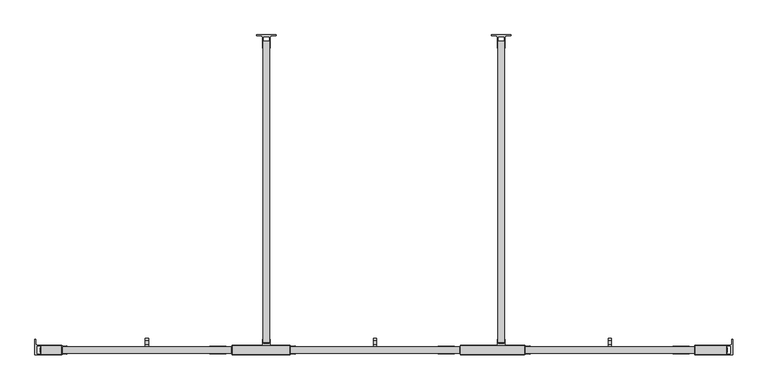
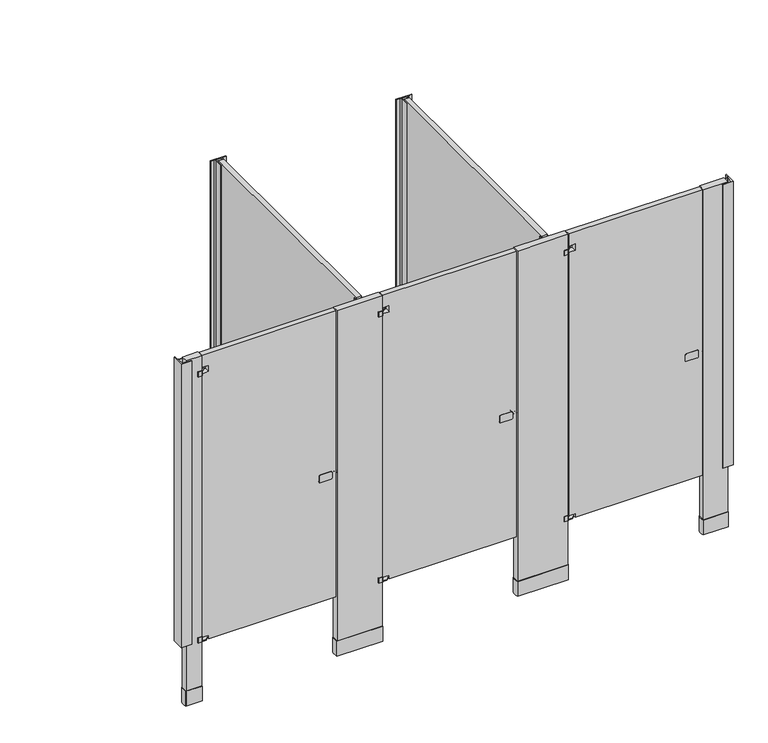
"""IFC4 building model written with IfcOpenShell, lengths in millimetres: proxy geometry, Partition-Floor_Braced-Bradley_Corp-Enamel-ADA-N_Stalls : ADA (optional) + n Standard Stalls."""

from ifc_helpers import new_model, si_unit, point, frame, frame_2d, origin, origin_with_axes, place, context, project, spatial, polyline, circle_curve, trimmed, segment, composite_curve, outline, extrude, source, transform, mapped, element, save
from ifc_brep_helpers import plane_surface, cylinder_surface, advanced_brep


def specialty_equipment_733fec99(model_context):
    return source(origin(), model_context, "Body", "SolidModel", [
        extrude(outline(polyline([(-1199.9991724, 1411.4003365), (-1199.9991724, 1462.2003365), (-1193.6491724, 1462.2003365), (-1193.6491724, 1417.7503365), (-1174.5991724, 1417.7503365), (-1174.5991724, 1424.1003365), (-1168.2491724, 1424.1003365), (-1168.2491724, 1411.4003365), (-1199.9991724, 1411.4003365)])), frame((615.9502547, 0.0, 0.0), z_axis=(1.0, 0.0, 0.0), x_axis=(0.0, 1.0, 0.0)), (0.0, 0.0, 1.0), 12.7),
        advanced_brep(
        [(941.3750547, -1207.62, 939.8), (941.3750547, -1217.78, 939.8), (958.8502547, -1217.78, 939.8), (958.8502547, -1207.62, 939.8), (941.3750547, -1212.7, 939.8), (958.8502547, -1212.7, 939.8)],
        [
            (0, 1, circle_curve(frame((941.3750547, -1212.7, 939.8), z_axis=(1.0, 0.0, 0.0), x_axis=(0.0, -1.0, 0.0)), 5.08)),
            (1, 2),
            (2, 3, circle_curve(frame((958.8502547, -1212.7, 939.8), z_axis=(-1.0, 0.0, 0.0), x_axis=(0.0, -1.0, 0.0)), 5.08)),
            (3, 0),
            (1, 0, circle_curve(frame((941.3750547, -1212.7, 939.8), z_axis=(1.0, 0.0, 0.0), x_axis=(0.0, -1.0, 0.0)), 5.08)),
            (3, 2, circle_curve(frame((958.8502547, -1212.7, 939.8), z_axis=(-1.0, 0.0, 0.0), x_axis=(0.0, -1.0, 0.0)), 5.08)),
            (4, 1),
            (0, 4),
            (2, 5),
            (5, 3),
        ],
        [
            cylinder_surface(frame((958.8502547, -1212.7, 939.8), z_axis=(-1.0, 0.0, 0.0), x_axis=(0.0, -1.0, 0.0)), 5.08),
            plane_surface(frame((941.3750547, -1212.7, 939.8), z_axis=(-1.0, 0.0, 0.0), x_axis=(0.0, -1.0, 0.0))),
            plane_surface(frame((958.8502547, -1212.7, 939.8), z_axis=(1.0, 0.0, 0.0), x_axis=(0.0, -1.0, 0.0))),
        ],
        [
            (0, [[1, 2, 3, 4]]),
            (0, [[5, -4, 6, -2]]),
            (1, [[7, -1, 8]]),
            (1, [[-8, -5, -7]]),
            (2, [[-3, 9, 10]]),
            (2, [[-6, -10, -9]]),
        ],
    ),
        extrude(outline(composite_curve([segment(trimmed(circle_curve(frame_2d((926.0058992, 870.4309539)), 5.2558992), [point((926.0058992, 865.1750547))], [point((920.75, 870.4309539))], False, "CARTESIAN"), True, "CONTINUOUS"), segment(polyline([(920.75, 870.4309539), (920.75, 923.4191555)]), True, "CONTINUOUS"), segment(trimmed(circle_curve(frame_2d((926.0058992, 923.4191555)), 5.2558992), [point((920.75, 923.4191555))], [point((926.0058992, 928.6750547))], False, "CARTESIAN"), True, "CONTINUOUS"), segment(polyline([(926.0058992, 928.6750547), (953.5941008, 928.6750547)]), True, "CONTINUOUS"), segment(trimmed(circle_curve(frame_2d((953.5941008, 923.4191555)), 5.2558992), [point((953.5941008, 928.6750547))], [point((958.85, 923.4191555))], False, "CARTESIAN"), True, "CONTINUOUS"), segment(polyline([(958.85, 923.4191555), (958.85, 870.4309539)]), True, "CONTINUOUS"), segment(trimmed(circle_curve(frame_2d((953.5941008, 870.4309539)), 5.2558992), [point((958.85, 870.4309539))], [point((953.5941008, 865.1750547))], False, "CARTESIAN"), True, "CONTINUOUS"), segment(polyline([(953.5941008, 865.1750547), (926.0058992, 865.1750547)]), True, "CONTINUOUS")], self_intersect=False)), frame((0.0, -1227.305, 0.0), z_axis=(0.0, 1.0, 0.0), x_axis=(0.0, 0.0, 1.0)), (0.0, 0.0, 1.0), 29.21),
        extrude(outline(polyline([(-1199.9991724, 1411.4003365), (-1199.9991724, 1462.2003365), (-1193.6491724, 1462.2003365), (-1193.6491724, 1417.7503365), (-1174.5991724, 1417.7503365), (-1174.5991724, 1424.1003365), (-1168.2491724, 1424.1003365), (-1168.2491724, 1411.4003365), (-1199.9991724, 1411.4003365)])), frame((1495.9502547, 0.0, 0.0), z_axis=(1.0, 0.0, 0.0), x_axis=(0.0, 1.0, 0.0)), (0.0, 0.0, 1.0), 12.7),
        advanced_brep(
        [(1821.3750547, -1207.62, 939.8), (1821.3750547, -1217.78, 939.8), (1838.8502547, -1217.78, 939.8), (1838.8502547, -1207.62, 939.8), (1821.3750547, -1212.7, 939.8), (1838.8502547, -1212.7, 939.8)],
        [
            (0, 1, circle_curve(frame((1821.3750547, -1212.7, 939.8), z_axis=(1.0, 0.0, 0.0), x_axis=(0.0, -1.0, 0.0)), 5.08)),
            (1, 2),
            (2, 3, circle_curve(frame((1838.8502547, -1212.7, 939.8), z_axis=(-1.0, 0.0, 0.0), x_axis=(0.0, -1.0, 0.0)), 5.08)),
            (3, 0),
            (1, 0, circle_curve(frame((1821.3750547, -1212.7, 939.8), z_axis=(1.0, 0.0, 0.0), x_axis=(0.0, -1.0, 0.0)), 5.08)),
            (3, 2, circle_curve(frame((1838.8502547, -1212.7, 939.8), z_axis=(-1.0, 0.0, 0.0), x_axis=(0.0, -1.0, 0.0)), 5.08)),
            (4, 1),
            (0, 4),
            (2, 5),
            (5, 3),
        ],
        [
            cylinder_surface(frame((1838.8502547, -1212.7, 939.8), z_axis=(-1.0, 0.0, 0.0), x_axis=(0.0, -1.0, 0.0)), 5.08),
            plane_surface(frame((1821.3750547, -1212.7, 939.8), z_axis=(-1.0, 0.0, 0.0), x_axis=(0.0, -1.0, 0.0))),
            plane_surface(frame((1838.8502547, -1212.7, 939.8), z_axis=(1.0, 0.0, 0.0), x_axis=(0.0, -1.0, 0.0))),
        ],
        [
            (0, [[1, 2, 3, 4]]),
            (0, [[5, -4, 6, -2]]),
            (1, [[7, -1, 8]]),
            (1, [[-8, -5, -7]]),
            (2, [[-3, 9, 10]]),
            (2, [[-6, -10, -9]]),
        ],
    ),
        extrude(outline(composite_curve([segment(trimmed(circle_curve(frame_2d((926.0058992, 1750.4309539)), 5.2558992), [point((926.0058992, 1745.1750547))], [point((920.75, 1750.4309539))], False, "CARTESIAN"), True, "CONTINUOUS"), segment(polyline([(920.75, 1750.4309539), (920.75, 1803.4191555)]), True, "CONTINUOUS"), segment(trimmed(circle_curve(frame_2d((926.0058992, 1803.4191555)), 5.2558992), [point((920.75, 1803.4191555))], [point((926.0058992, 1808.6750547))], False, "CARTESIAN"), True, "CONTINUOUS"), segment(polyline([(926.0058992, 1808.6750547), (953.5941008, 1808.6750547)]), True, "CONTINUOUS"), segment(trimmed(circle_curve(frame_2d((953.5941008, 1803.4191555)), 5.2558992), [point((953.5941008, 1808.6750547))], [point((958.85, 1803.4191555))], False, "CARTESIAN"), True, "CONTINUOUS"), segment(polyline([(958.85, 1803.4191555), (958.85, 1750.4309539)]), True, "CONTINUOUS"), segment(trimmed(circle_curve(frame_2d((953.5941008, 1750.4309539)), 5.2558992), [point((958.85, 1750.4309539))], [point((953.5941008, 1745.1750547))], False, "CARTESIAN"), True, "CONTINUOUS"), segment(polyline([(953.5941008, 1745.1750547), (926.0058992, 1745.1750547)]), True, "CONTINUOUS")], self_intersect=False)), frame((0.0, -1227.305, 0.0), z_axis=(0.0, 1.0, 0.0), x_axis=(0.0, 0.0, 1.0)), (0.0, 0.0, 1.0), 29.21),
        extrude(outline(polyline([(-1199.9991724, 1411.4003365), (-1199.9991724, 1462.2003365), (-1193.6491724, 1462.2003365), (-1193.6491724, 1417.7503365), (-1174.5991724, 1417.7503365), (-1174.5991724, 1424.1003365), (-1168.2491724, 1424.1003365), (-1168.2491724, 1411.4003365), (-1199.9991724, 1411.4003365)])), frame((2401.3502547, 0.0, 0.0), z_axis=(1.0, 0.0, 0.0), x_axis=(0.0, 1.0, 0.0)), (0.0, 0.0, 1.0), 12.7),
        advanced_brep(
        [(2726.7750547, -1207.62, 939.8), (2726.7750547, -1217.78, 939.8), (2744.2502547, -1217.78, 939.8), (2744.2502547, -1207.62, 939.8), (2726.7750547, -1212.7, 939.8), (2744.2502547, -1212.7, 939.8)],
        [
            (0, 1, circle_curve(frame((2726.7750547, -1212.7, 939.8), z_axis=(1.0, 0.0, 0.0), x_axis=(0.0, -1.0, 0.0)), 5.08)),
            (1, 2),
            (2, 3, circle_curve(frame((2744.2502547, -1212.7, 939.8), z_axis=(-1.0, 0.0, 0.0), x_axis=(0.0, -1.0, 0.0)), 5.08)),
            (3, 0),
            (1, 0, circle_curve(frame((2726.7750547, -1212.7, 939.8), z_axis=(1.0, 0.0, 0.0), x_axis=(0.0, -1.0, 0.0)), 5.08)),
            (3, 2, circle_curve(frame((2744.2502547, -1212.7, 939.8), z_axis=(-1.0, 0.0, 0.0), x_axis=(0.0, -1.0, 0.0)), 5.08)),
            (4, 1),
            (0, 4),
            (2, 5),
            (5, 3),
        ],
        [
            cylinder_surface(frame((2744.2502547, -1212.7, 939.8), z_axis=(-1.0, 0.0, 0.0), x_axis=(0.0, -1.0, 0.0)), 5.08),
            plane_surface(frame((2726.7750547, -1212.7, 939.8), z_axis=(-1.0, 0.0, 0.0), x_axis=(0.0, -1.0, 0.0))),
            plane_surface(frame((2744.2502547, -1212.7, 939.8), z_axis=(1.0, 0.0, 0.0), x_axis=(0.0, -1.0, 0.0))),
        ],
        [
            (0, [[1, 2, 3, 4]]),
            (0, [[5, -4, 6, -2]]),
            (1, [[7, -1, 8]]),
            (1, [[-8, -5, -7]]),
            (2, [[-3, 9, 10]]),
            (2, [[-6, -10, -9]]),
        ],
    ),
        extrude(outline(composite_curve([segment(trimmed(circle_curve(frame_2d((926.0058992, 2655.8309539)), 5.2558992), [point((926.0058992, 2650.5750547))], [point((920.75, 2655.8309539))], False, "CARTESIAN"), True, "CONTINUOUS"), segment(polyline([(920.75, 2655.8309539), (920.75, 2708.8191555)]), True, "CONTINUOUS"), segment(trimmed(circle_curve(frame_2d((926.0058992, 2708.8191555)), 5.2558992), [point((920.75, 2708.8191555))], [point((926.0058992, 2714.0750547))], False, "CARTESIAN"), True, "CONTINUOUS"), segment(polyline([(926.0058992, 2714.0750547), (953.5941008, 2714.0750547)]), True, "CONTINUOUS"), segment(trimmed(circle_curve(frame_2d((953.5941008, 2708.8191555)), 5.2558992), [point((953.5941008, 2714.0750547))], [point((958.85, 2708.8191555))], False, "CARTESIAN"), True, "CONTINUOUS"), segment(polyline([(958.85, 2708.8191555), (958.85, 2655.8309539)]), True, "CONTINUOUS"), segment(trimmed(circle_curve(frame_2d((953.5941008, 2655.8309539)), 5.2558992), [point((958.85, 2655.8309539))], [point((953.5941008, 2650.5750547))], False, "CARTESIAN"), True, "CONTINUOUS"), segment(polyline([(953.5941008, 2650.5750547), (926.0058992, 2650.5750547)]), True, "CONTINUOUS")], self_intersect=False)), frame((0.0, -1227.305, 0.0), z_axis=(0.0, 1.0, 0.0), x_axis=(0.0, 0.0, 1.0)), (0.0, 0.0, 1.0), 29.21),
        extrude(outline(composite_curve([segment(polyline([(2881.3002547, -1171.425), (2881.3002547, -1231.115), (2830.5002547, -1231.115), (2830.5002547, -1228.575), (2874.3524359, -1228.575), (2874.3524359, -1196.825), (2830.5002547, -1196.825), (2830.5002547, -1194.285), (2872.4102547, -1194.285)]), True, "CONTINUOUS"), segment(trimmed(circle_curve(frame_2d((2872.4102547, -1187.935)), 6.35), [point((2872.4102547, -1194.285))], [point((2878.7602547, -1187.935))], True, "CARTESIAN"), True, "CONTINUOUS"), segment(polyline([(2878.7602547, -1187.935), (2878.7602547, -1171.425), (2881.3002547, -1171.425)]), True, "CONTINUOUS")], self_intersect=False)), frame((0.0, 0.0, 311.15), z_axis=(0.0, 0.0, 1.0), x_axis=(1.0, 0.0, 0.0)), (0.0, 0.0, 1.0), 1460.5),
        extrude(outline(composite_curve([segment(trimmed(circle_curve(frame_2d((2087.3554547, -1212.7)), 2.54), [point((2087.3554547, -1215.24))], [point((2087.3554547, -1210.16))], False, "CARTESIAN"), True, "CONTINUOUS"), segment(trimmed(circle_curve(frame_2d((2087.3554547, -1212.7)), 2.54), [point((2087.3554547, -1210.16))], [point((2087.3554547, -1215.24))], False, "CARTESIAN"), True, "CONTINUOUS")], self_intersect=False)), frame((0.0, 0.0, 304.8), z_axis=(0.0, 0.0, 1.0), x_axis=(1.0, 0.0, 0.0)), (0.0, 0.0, 1.0), 25.4),
        extrude(outline(composite_curve([segment(polyline([(2077.5002547, -1197.46), (2099.0902547, -1196.825), (2109.2502547, -1205.08)]), True, "CONTINUOUS"), segment(trimmed(circle_curve(frame_2d((2105.4402547, -1212.7)), 8.519419), [point((2109.2502547, -1205.08))], [point((2109.2502547, -1220.32))], False, "CARTESIAN"), True, "CONTINUOUS"), segment(polyline([(2109.2502547, -1220.32), (2099.0902547, -1228.575), (2077.5002547, -1227.94), (2077.5002547, -1197.46)]), True, "CONTINUOUS")], self_intersect=False)), frame((0.0, 0.0, 304.8), z_axis=(0.0, 0.0, 1.0), x_axis=(1.0, 0.0, 0.0)), (0.0, 0.0, 1.0), 3.81),
        extrude(outline(composite_curve([segment(polyline([(2058.4502547, -1194.285), (2077.5002547, -1194.285)]), True, "CONTINUOUS"), segment(trimmed(circle_curve(frame_2d((2077.5002547, -1196.825)), 2.54), [point((2077.5002547, -1194.285))], [point((2080.0402547, -1196.825))], False, "CARTESIAN"), True, "CONTINUOUS"), segment(trimmed(circle_curve(frame_2d((1972.2397496, -1212.7)), 108.9631338), [point((2080.0402547, -1196.825))], [point((2080.0402547, -1228.575))], False, "CARTESIAN"), True, "CONTINUOUS"), segment(trimmed(circle_curve(frame_2d((2077.5002547, -1228.575)), 2.54), [point((2080.0402547, -1228.575))], [point((2077.5002547, -1231.115))], False, "CARTESIAN"), True, "CONTINUOUS"), segment(polyline([(2077.5002547, -1231.115), (2058.4502547, -1231.115), (2058.4502547, -1194.285)]), True, "CONTINUOUS")], self_intersect=False)), frame((0.0, 0.0, 304.8), z_axis=(0.0, 0.0, 1.0), x_axis=(1.0, 0.0, 0.0)), (0.0, 0.0, 1.0), 25.4),
        extrude(outline(composite_curve([segment(trimmed(circle_curve(frame_2d((2087.3554547, -1212.7)), 2.54), [point((2087.3554547, -1215.24))], [point((2087.3554547, -1210.16))], False, "CARTESIAN"), True, "CONTINUOUS"), segment(trimmed(circle_curve(frame_2d((2087.3554547, -1212.7)), 2.54), [point((2087.3554547, -1210.16))], [point((2087.3554547, -1215.24))], False, "CARTESIAN"), True, "CONTINUOUS")], self_intersect=False)), frame((0.0, 0.0, 1676.4), z_axis=(0.0, 0.0, 1.0), x_axis=(1.0, 0.0, 0.0)), (0.0, 0.0, 1.0), 25.4),
        extrude(outline(composite_curve([segment(polyline([(2082.2754547, -1228.575), (2077.5002547, -1227.94), (2077.5002547, -1197.46), (2082.2754547, -1196.825), (2092.4354547, -1205.08)]), True, "CONTINUOUS"), segment(trimmed(circle_curve(frame_2d((2088.6254547, -1212.7)), 8.519419), [point((2092.4354547, -1205.08))], [point((2092.4354547, -1220.32))], False, "CARTESIAN"), True, "CONTINUOUS"), segment(polyline([(2092.4354547, -1220.32), (2082.2754547, -1228.575)]), True, "CONTINUOUS")], self_intersect=False)), frame((0.0, 0.0, 1697.99), z_axis=(0.0, 0.0, 1.0), x_axis=(1.0, 0.0, 0.0)), (0.0, 0.0, 1.0), 3.81),
        extrude(outline(composite_curve([segment(polyline([(2058.4502547, -1194.285), (2077.5002547, -1194.285)]), True, "CONTINUOUS"), segment(trimmed(circle_curve(frame_2d((2077.5002547, -1196.825)), 2.54), [point((2077.5002547, -1194.285))], [point((2080.0402547, -1196.825))], False, "CARTESIAN"), True, "CONTINUOUS"), segment(trimmed(circle_curve(frame_2d((1972.2397496, -1212.7)), 108.9631338), [point((2080.0402547, -1196.825))], [point((2080.0402547, -1228.575))], False, "CARTESIAN"), True, "CONTINUOUS"), segment(trimmed(circle_curve(frame_2d((2077.5002547, -1228.575)), 2.54), [point((2080.0402547, -1228.575))], [point((2077.5002547, -1231.115))], False, "CARTESIAN"), True, "CONTINUOUS"), segment(polyline([(2077.5002547, -1231.115), (2058.4502547, -1231.115), (2058.4502547, -1194.285)]), True, "CONTINUOUS")], self_intersect=False)), frame((0.0, 0.0, 1676.4), z_axis=(0.0, 0.0, 1.0), x_axis=(1.0, 0.0, 0.0)), (0.0, 0.0, 1.0), 25.4),
        extrude(outline(composite_curve([segment(trimmed(circle_curve(frame_2d((1181.9554547, -1212.7)), 2.54), [point((1181.9554547, -1215.24))], [point((1181.9554547, -1210.16))], False, "CARTESIAN"), True, "CONTINUOUS"), segment(trimmed(circle_curve(frame_2d((1181.9554547, -1212.7)), 2.54), [point((1181.9554547, -1210.16))], [point((1181.9554547, -1215.24))], False, "CARTESIAN"), True, "CONTINUOUS")], self_intersect=False)), frame((0.0, 0.0, 304.8), z_axis=(0.0, 0.0, 1.0), x_axis=(1.0, 0.0, 0.0)), (0.0, 0.0, 1.0), 25.4),
        extrude(outline(composite_curve([segment(polyline([(1172.1002547, -1197.46), (1193.6902547, -1196.825), (1203.8502547, -1205.08)]), True, "CONTINUOUS"), segment(trimmed(circle_curve(frame_2d((1200.0402547, -1212.7)), 8.519419), [point((1203.8502547, -1205.08))], [point((1203.8502547, -1220.32))], False, "CARTESIAN"), True, "CONTINUOUS"), segment(polyline([(1203.8502547, -1220.32), (1193.6902547, -1228.575), (1172.1002547, -1227.94), (1172.1002547, -1197.46)]), True, "CONTINUOUS")], self_intersect=False)), frame((0.0, 0.0, 304.8), z_axis=(0.0, 0.0, 1.0), x_axis=(1.0, 0.0, 0.0)), (0.0, 0.0, 1.0), 3.81),
        extrude(outline(composite_curve([segment(polyline([(1153.0502547, -1194.285), (1172.1002547, -1194.285)]), True, "CONTINUOUS"), segment(trimmed(circle_curve(frame_2d((1172.1002547, -1196.825)), 2.54), [point((1172.1002547, -1194.285))], [point((1174.6402547, -1196.825))], False, "CARTESIAN"), True, "CONTINUOUS"), segment(trimmed(circle_curve(frame_2d((1066.8397496, -1212.7)), 108.9631338), [point((1174.6402547, -1196.825))], [point((1174.6402547, -1228.575))], False, "CARTESIAN"), True, "CONTINUOUS"), segment(trimmed(circle_curve(frame_2d((1172.1002547, -1228.575)), 2.54), [point((1174.6402547, -1228.575))], [point((1172.1002547, -1231.115))], False, "CARTESIAN"), True, "CONTINUOUS"), segment(polyline([(1172.1002547, -1231.115), (1153.0502547, -1231.115), (1153.0502547, -1194.285)]), True, "CONTINUOUS")], self_intersect=False)), frame((0.0, 0.0, 304.8), z_axis=(0.0, 0.0, 1.0), x_axis=(1.0, 0.0, 0.0)), (0.0, 0.0, 1.0), 25.4),
        extrude(outline(composite_curve([segment(trimmed(circle_curve(frame_2d((1181.9554547, -1212.7)), 2.54), [point((1181.9554547, -1215.24))], [point((1181.9554547, -1210.16))], False, "CARTESIAN"), True, "CONTINUOUS"), segment(trimmed(circle_curve(frame_2d((1181.9554547, -1212.7)), 2.54), [point((1181.9554547, -1210.16))], [point((1181.9554547, -1215.24))], False, "CARTESIAN"), True, "CONTINUOUS")], self_intersect=False)), frame((0.0, 0.0, 1676.4), z_axis=(0.0, 0.0, 1.0), x_axis=(1.0, 0.0, 0.0)), (0.0, 0.0, 1.0), 25.4),
        extrude(outline(composite_curve([segment(polyline([(1176.8754547, -1228.575), (1172.1002547, -1227.94), (1172.1002547, -1197.46), (1176.8754547, -1196.825), (1187.0354547, -1205.08)]), True, "CONTINUOUS"), segment(trimmed(circle_curve(frame_2d((1183.2254547, -1212.7)), 8.519419), [point((1187.0354547, -1205.08))], [point((1187.0354547, -1220.32))], False, "CARTESIAN"), True, "CONTINUOUS"), segment(polyline([(1187.0354547, -1220.32), (1176.8754547, -1228.575)]), True, "CONTINUOUS")], self_intersect=False)), frame((0.0, 0.0, 1697.99), z_axis=(0.0, 0.0, 1.0), x_axis=(1.0, 0.0, 0.0)), (0.0, 0.0, 1.0), 3.81),
        extrude(outline(composite_curve([segment(polyline([(1153.0502547, -1194.285), (1172.1002547, -1194.285)]), True, "CONTINUOUS"), segment(trimmed(circle_curve(frame_2d((1172.1002547, -1196.825)), 2.54), [point((1172.1002547, -1194.285))], [point((1174.6402547, -1196.825))], False, "CARTESIAN"), True, "CONTINUOUS"), segment(trimmed(circle_curve(frame_2d((1066.8397496, -1212.7)), 108.9631338), [point((1174.6402547, -1196.825))], [point((1174.6402547, -1228.575))], False, "CARTESIAN"), True, "CONTINUOUS"), segment(trimmed(circle_curve(frame_2d((1172.1002547, -1228.575)), 2.54), [point((1174.6402547, -1228.575))], [point((1172.1002547, -1231.115))], False, "CARTESIAN"), True, "CONTINUOUS"), segment(polyline([(1172.1002547, -1231.115), (1153.0502547, -1231.115), (1153.0502547, -1194.285)]), True, "CONTINUOUS")], self_intersect=False)), frame((0.0, 0.0, 1676.4), z_axis=(0.0, 0.0, 1.0), x_axis=(1.0, 0.0, 0.0)), (0.0, 0.0, 1.0), 25.4),
        extrude(outline(polyline([(1973.3602547, -1196.825), (1973.3602547, -1171.425), (1975.9002547, -1171.425), (1975.9002547, -1189.8771812), (2001.3002547, -1189.8771812), (2001.3002547, -1171.425), (2003.8402547, -1171.425), (2003.8402547, -1196.825), (1973.3602547, -1196.825)])), frame((0.0, 0.0, 311.15), z_axis=(0.0, 0.0, 1.0), x_axis=(1.0, 0.0, 0.0)), (0.0, 0.0, 1.0), 1460.5),
        extrude(outline(composite_curve([segment(polyline([(2026.7002547, 3.175), (2026.7002547, 0.635), (2010.1902547, 0.635)]), True, "CONTINUOUS"), segment(trimmed(circle_curve(frame_2d((2010.1902547, -5.715)), 6.35), [point((2010.1902547, 0.635))], [point((2003.8402547, -5.715))], True, "CARTESIAN"), True, "CONTINUOUS"), segment(polyline([(2003.8402547, -5.715), (2003.8402547, -47.625), (2001.3002547, -47.625), (2001.3002547, -3.7728188), (1975.9002547, -3.7728188), (1975.9002547, -47.625), (1973.3602547, -47.625), (1973.3602547, -5.715)]), True, "CONTINUOUS"), segment(trimmed(circle_curve(frame_2d((1967.0102547, -5.715)), 6.35), [point((1973.3602547, -5.715))], [point((1967.0102547, 0.635))], True, "CARTESIAN"), True, "CONTINUOUS"), segment(polyline([(1967.0102547, 0.635), (1950.5002547, 0.635), (1950.5002547, 3.175), (2026.7002547, 3.175)]), True, "CONTINUOUS")], self_intersect=False)), frame((0.0, 0.0, 311.15), z_axis=(0.0, 0.0, 1.0), x_axis=(1.0, 0.0, 0.0)), (0.0, 0.0, 1.0), 1460.5),
        extrude(outline(composite_curve([segment(trimmed(circle_curve(frame_2d((301.9554547, -1212.7)), 2.54), [point((301.9554547, -1215.24))], [point((301.9554547, -1210.16))], False, "CARTESIAN"), True, "CONTINUOUS"), segment(trimmed(circle_curve(frame_2d((301.9554547, -1212.7)), 2.54), [point((301.9554547, -1210.16))], [point((301.9554547, -1215.24))], False, "CARTESIAN"), True, "CONTINUOUS")], self_intersect=False)), frame((0.0, 0.0, 304.8), z_axis=(0.0, 0.0, 1.0), x_axis=(1.0, 0.0, 0.0)), (0.0, 0.0, 1.0), 25.4),
        extrude(outline(composite_curve([segment(polyline([(292.1002547, -1197.46), (313.6902547, -1196.825), (323.8502547, -1205.08)]), True, "CONTINUOUS"), segment(trimmed(circle_curve(frame_2d((320.0402547, -1212.7)), 8.519419), [point((323.8502547, -1205.08))], [point((323.8502547, -1220.32))], False, "CARTESIAN"), True, "CONTINUOUS"), segment(polyline([(323.8502547, -1220.32), (313.6902547, -1228.575), (292.1002547, -1227.94), (292.1002547, -1197.46)]), True, "CONTINUOUS")], self_intersect=False)), frame((0.0, 0.0, 304.8), z_axis=(0.0, 0.0, 1.0), x_axis=(1.0, 0.0, 0.0)), (0.0, 0.0, 1.0), 3.81),
        extrude(outline(composite_curve([segment(polyline([(273.0502547, -1194.285), (292.1002547, -1194.285)]), True, "CONTINUOUS"), segment(trimmed(circle_curve(frame_2d((292.1002547, -1196.825)), 2.54), [point((292.1002547, -1194.285))], [point((294.6402547, -1196.825))], False, "CARTESIAN"), True, "CONTINUOUS"), segment(trimmed(circle_curve(frame_2d((186.8397496, -1212.7)), 108.9631338), [point((294.6402547, -1196.825))], [point((294.6402547, -1228.575))], False, "CARTESIAN"), True, "CONTINUOUS"), segment(trimmed(circle_curve(frame_2d((292.1002547, -1228.575)), 2.54), [point((294.6402547, -1228.575))], [point((292.1002547, -1231.115))], False, "CARTESIAN"), True, "CONTINUOUS"), segment(polyline([(292.1002547, -1231.115), (273.0502547, -1231.115), (273.0502547, -1194.285)]), True, "CONTINUOUS")], self_intersect=False)), frame((0.0, 0.0, 304.8), z_axis=(0.0, 0.0, 1.0), x_axis=(1.0, 0.0, 0.0)), (0.0, 0.0, 1.0), 25.4),
        extrude(outline(composite_curve([segment(trimmed(circle_curve(frame_2d((301.9554547, -1212.7)), 2.54), [point((301.9554547, -1215.24))], [point((301.9554547, -1210.16))], False, "CARTESIAN"), True, "CONTINUOUS"), segment(trimmed(circle_curve(frame_2d((301.9554547, -1212.7)), 2.54), [point((301.9554547, -1210.16))], [point((301.9554547, -1215.24))], False, "CARTESIAN"), True, "CONTINUOUS")], self_intersect=False)), frame((0.0, 0.0, 1676.4), z_axis=(0.0, 0.0, 1.0), x_axis=(1.0, 0.0, 0.0)), (0.0, 0.0, 1.0), 25.4),
        extrude(outline(composite_curve([segment(polyline([(296.8754547, -1228.575), (292.1002547, -1227.94), (292.1002547, -1197.46), (296.8754547, -1196.825), (307.0354547, -1205.08)]), True, "CONTINUOUS"), segment(trimmed(circle_curve(frame_2d((303.2254547, -1212.7)), 8.519419), [point((307.0354547, -1205.08))], [point((307.0354547, -1220.32))], False, "CARTESIAN"), True, "CONTINUOUS"), segment(polyline([(307.0354547, -1220.32), (296.8754547, -1228.575)]), True, "CONTINUOUS")], self_intersect=False)), frame((0.0, 0.0, 1697.99), z_axis=(0.0, 0.0, 1.0), x_axis=(1.0, 0.0, 0.0)), (0.0, 0.0, 1.0), 3.81),
        extrude(outline(composite_curve([segment(polyline([(273.0502547, -1194.285), (292.1002547, -1194.285)]), True, "CONTINUOUS"), segment(trimmed(circle_curve(frame_2d((292.1002547, -1196.825)), 2.54), [point((292.1002547, -1194.285))], [point((294.6402547, -1196.825))], False, "CARTESIAN"), True, "CONTINUOUS"), segment(trimmed(circle_curve(frame_2d((186.8397496, -1212.7)), 108.9631338), [point((294.6402547, -1196.825))], [point((294.6402547, -1228.575))], False, "CARTESIAN"), True, "CONTINUOUS"), segment(trimmed(circle_curve(frame_2d((292.1002547, -1228.575)), 2.54), [point((294.6402547, -1228.575))], [point((292.1002547, -1231.115))], False, "CARTESIAN"), True, "CONTINUOUS"), segment(polyline([(292.1002547, -1231.115), (273.0502547, -1231.115), (273.0502547, -1194.285)]), True, "CONTINUOUS")], self_intersect=False)), frame((0.0, 0.0, 1676.4), z_axis=(0.0, 0.0, 1.0), x_axis=(1.0, 0.0, 0.0)), (0.0, 0.0, 1.0), 25.4),
        extrude(outline(composite_curve([segment(polyline([(190.5002547, -1171.425), (193.0402547, -1171.425), (193.0402547, -1187.935)]), True, "CONTINUOUS"), segment(trimmed(circle_curve(frame_2d((199.3902547, -1187.935)), 6.35), [point((193.0402547, -1187.935))], [point((199.3902547, -1194.285))], True, "CARTESIAN"), True, "CONTINUOUS"), segment(polyline([(199.3902547, -1194.285), (241.3002547, -1194.285), (241.3002547, -1196.825), (197.4480735, -1196.825), (197.4480735, -1228.575), (241.3002547, -1228.575), (241.3002547, -1231.115), (190.5002547, -1231.115), (190.5002547, -1171.425)]), True, "CONTINUOUS")], self_intersect=False)), frame((0.0, 0.0, 311.15), z_axis=(0.0, 0.0, 1.0), x_axis=(1.0, 0.0, 0.0)), (0.0, 0.0, 1.0), 1460.5),
        extrude(outline(polyline([(1067.9602547, -1196.825), (1067.9602547, -1171.425), (1070.5002547, -1171.425), (1070.5002547, -1189.8771812), (1095.9002547, -1189.8771812), (1095.9002547, -1171.425), (1098.4402547, -1171.425), (1098.4402547, -1196.825), (1067.9602547, -1196.825)])), frame((0.0, 0.0, 311.15), z_axis=(0.0, 0.0, 1.0), x_axis=(1.0, 0.0, 0.0)), (0.0, 0.0, 1.0), 1460.5),
        extrude(outline(composite_curve([segment(polyline([(1121.3002547, 3.175), (1121.3002547, 0.635), (1104.7902547, 0.635)]), True, "CONTINUOUS"), segment(trimmed(circle_curve(frame_2d((1104.7902547, -5.715)), 6.35), [point((1104.7902547, 0.635))], [point((1098.4402547, -5.715))], True, "CARTESIAN"), True, "CONTINUOUS"), segment(polyline([(1098.4402547, -5.715), (1098.4402547, -47.625), (1095.9002547, -47.625), (1095.9002547, -3.7728188), (1070.5002547, -3.7728188), (1070.5002547, -47.625), (1067.9602547, -47.625), (1067.9602547, -5.715)]), True, "CONTINUOUS"), segment(trimmed(circle_curve(frame_2d((1061.6102547, -5.715)), 6.35), [point((1067.9602547, -5.715))], [point((1061.6102547, 0.635))], True, "CARTESIAN"), True, "CONTINUOUS"), segment(polyline([(1061.6102547, 0.635), (1045.1002547, 0.635), (1045.1002547, 3.175), (1121.3002547, 3.175)]), True, "CONTINUOUS")], self_intersect=False)), frame((0.0, 0.0, 311.15), z_axis=(0.0, 0.0, 1.0), x_axis=(1.0, 0.0, 0.0)), (0.0, 0.0, 1.0), 1460.5),
        extrude(outline(composite_curve([segment(polyline([(214.3127547, -1195.2375), (293.6891337, -1195.2375)]), True, "CONTINUOUS"), segment(trimmed(circle_curve(frame_2d((237.900102, -1212.7)), 58.4581471), [point((293.6891337, -1195.2375))], [point((293.6891337, -1230.1625))], False, "CARTESIAN"), True, "CONTINUOUS"), segment(polyline([(293.6891337, -1230.1625), (214.3127547, -1230.1625)]), True, "CONTINUOUS"), segment(trimmed(circle_curve(frame_2d((270.1017864, -1212.7)), 58.4581471), [point((214.3127547, -1230.1625))], [point((214.3127547, -1195.2375))], False, "CARTESIAN"), True, "CONTINUOUS")], self_intersect=False)), origin_with_axes(), (0.0, 0.0, 1.0), 76.2),
        extrude(outline(composite_curve([segment(polyline([(1830.9127547, -1195.2375), (2079.0891337, -1195.2375)]), True, "CONTINUOUS"), segment(trimmed(circle_curve(frame_2d((2023.300102, -1212.7)), 58.4581471), [point((2079.0891337, -1195.2375))], [point((2079.0891337, -1230.1625))], False, "CARTESIAN"), True, "CONTINUOUS"), segment(polyline([(2079.0891337, -1230.1625), (1830.9127547, -1230.1625)]), True, "CONTINUOUS"), segment(trimmed(circle_curve(frame_2d((1886.7017864, -1212.7)), 58.4581471), [point((1830.9127547, -1230.1625))], [point((1830.9127547, -1195.2375))], False, "CARTESIAN"), True, "CONTINUOUS")], self_intersect=False)), origin_with_axes(), (0.0, 0.0, 1.0), 76.2),
        extrude(outline(composite_curve([segment(polyline([(950.9127547, -1195.2375), (1173.6891337, -1195.2375)]), True, "CONTINUOUS"), segment(trimmed(circle_curve(frame_2d((1117.900102, -1212.7)), 58.4581471), [point((1173.6891337, -1195.2375))], [point((1173.6891337, -1230.1625))], False, "CARTESIAN"), True, "CONTINUOUS"), segment(polyline([(1173.6891337, -1230.1625), (950.9127547, -1230.1625)]), True, "CONTINUOUS"), segment(trimmed(circle_curve(frame_2d((1006.7017864, -1212.7)), 58.4581471), [point((950.9127547, -1230.1625))], [point((950.9127547, -1195.2375))], False, "CARTESIAN"), True, "CONTINUOUS")], self_intersect=False)), origin_with_axes(), (0.0, 0.0, 1.0), 76.2),
        extrude(outline(composite_curve([segment(polyline([(2736.3127547, -1195.2375), (2857.4891337, -1195.2375)]), True, "CONTINUOUS"), segment(trimmed(circle_curve(frame_2d((2801.700102, -1212.7)), 58.4581471), [point((2857.4891337, -1195.2375))], [point((2857.4891337, -1230.1625))], False, "CARTESIAN"), True, "CONTINUOUS"), segment(polyline([(2857.4891337, -1230.1625), (2736.3127547, -1230.1625)]), True, "CONTINUOUS"), segment(trimmed(circle_curve(frame_2d((2792.1017864, -1212.7)), 58.4581471), [point((2736.3127547, -1230.1625))], [point((2736.3127547, -1195.2375))], False, "CARTESIAN"), True, "CONTINUOUS")], self_intersect=False)), origin_with_axes(), (0.0, 0.0, 1.0), 76.2),
        extrude(outline(polyline([(2737.9002547, -1196.825), (2855.9002547, -1196.825), (2855.9002547, -1228.575), (2737.9002547, -1228.575), (2737.9002547, -1196.825)])), origin_with_axes(), (0.0, 0.0, 1.0), 1778.0),
        extrude(outline(polyline([(1832.5002547, -1196.825), (2077.5002547, -1196.825), (2077.5002547, -1228.575), (1832.5002547, -1228.575), (1832.5002547, -1196.825)])), origin_with_axes(), (0.0, 0.0, 1.0), 1778.0),
        extrude(outline(polyline([(952.5002547, -1196.825), (1172.1002547, -1196.825), (1172.1002547, -1228.575), (952.5002547, -1228.575), (952.5002547, -1196.825)])), origin_with_axes(), (0.0, 0.0, 1.0), 1778.0),
        extrude(outline(polyline([(215.9002547, -1196.825), (292.1002547, -1196.825), (292.1002547, -1228.575), (215.9002547, -1228.575), (215.9002547, -1196.825)])), origin_with_axes(), (0.0, 0.0, 1.0), 1778.0),
        extrude(outline(polyline([(1975.9002547, -1184.125), (1975.9002547, -22.225), (2001.3002547, -22.225), (2001.3002547, -1184.125), (1975.9002547, -1184.125)])), frame((0.0, 0.0, 304.8), z_axis=(0.0, 0.0, 1.0), x_axis=(1.0, 0.0, 0.0)), (0.0, 0.0, 1.0), 1473.2),
        extrude(outline(polyline([(1070.5002547, -1184.125), (1070.5002547, -22.225), (1095.9002547, -22.225), (1095.9002547, -1184.125), (1070.5002547, -1184.125)])), frame((0.0, 0.0, 304.8), z_axis=(0.0, 0.0, 1.0), x_axis=(1.0, 0.0, 0.0)), (0.0, 0.0, 1.0), 1473.2),
        extrude(outline(polyline([(304.8, 1827.7250547), (1778.0, 1827.7250547), (1778.0, 1176.8754547), (1714.5, 1176.8754547), (1714.5, 1208.6254547), (1682.75, 1208.6254547), (1682.75, 1176.8754547), (323.85, 1176.8754547), (323.85, 1208.6254547), (304.8, 1208.6254547), (304.8, 1827.7250547)])), frame((0.0, -1225.4, 0.0), z_axis=(0.0, 1.0, 0.0), x_axis=(0.0, 0.0, 1.0)), (0.0, 0.0, 1.0), 25.4),
        extrude(outline(polyline([(1778.0, 2733.1250547), (1778.0, 2082.2754547), (1714.5, 2082.2754547), (1714.5, 2114.0254547), (1682.75, 2114.0254547), (1682.75, 2082.2754547), (323.85, 2082.2754547), (323.85, 2114.0254547), (304.8, 2114.0254547), (304.8, 2733.1250547), (1778.0, 2733.1250547)])), frame((0.0, -1225.4, 0.0), z_axis=(0.0, 1.0, 0.0), x_axis=(0.0, 0.0, 1.0)), (0.0, 0.0, 1.0), 25.4),
        extrude(outline(polyline([(1778.0, 947.7250547), (1778.0, 296.8754547), (1714.5, 296.8754547), (1714.5, 328.6254547), (1682.75, 328.6254547), (1682.75, 296.8754547), (323.85, 296.8754547), (323.85, 328.6254547), (304.8, 328.6254547), (304.8, 947.7250547), (1778.0, 947.7250547)])), frame((0.0, -1225.4, 0.0), z_axis=(0.0, 1.0, 0.0), x_axis=(0.0, 0.0, 1.0)), (0.0, 0.0, 1.0), 25.4),
    ])


if __name__ == "__main__":
    model = new_model("IFC4")
    model_context = context("Model", 3, world=origin())
    ifc_project = project(units=[si_unit("LENGTHUNIT", "METRE", prefix="MILLI")], contexts=[model_context])
    site = spatial("IfcSite", under=ifc_project)
    building = spatial("IfcBuilding", under=site)
    placement = place(None, origin())
    specialty_equipment_shape = specialty_equipment_733fec99(model_context)
    element("IfcBuildingElementProxy", 1, Name="Partition-Floor_Braced-Bradley_Corp-Enamel-ADA-N_Stalls : ADA (optional) + n Standard Stalls", ObjectType="Partition-Floor_Braced-Bradley_Corp-Enamel-ADA-N_Stalls : ADA (optional) + n Standard Stalls", at=placement, inside=building, context=model_context, shape_type="MappedRepresentation", body=[
        mapped(specialty_equipment_shape, transform((0.0, 0.0, 0.0), x_axis=(1.0, 0.0, 0.0), y_axis=(0.0, 1.0, 0.0), z_axis=(0.0, 0.0, 1.0))),
    ])
    save(model, "model.ifc")
